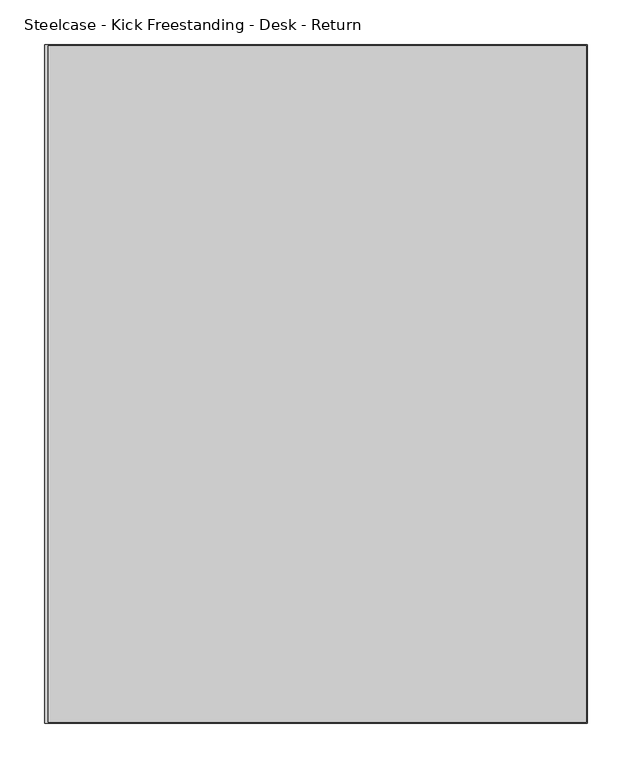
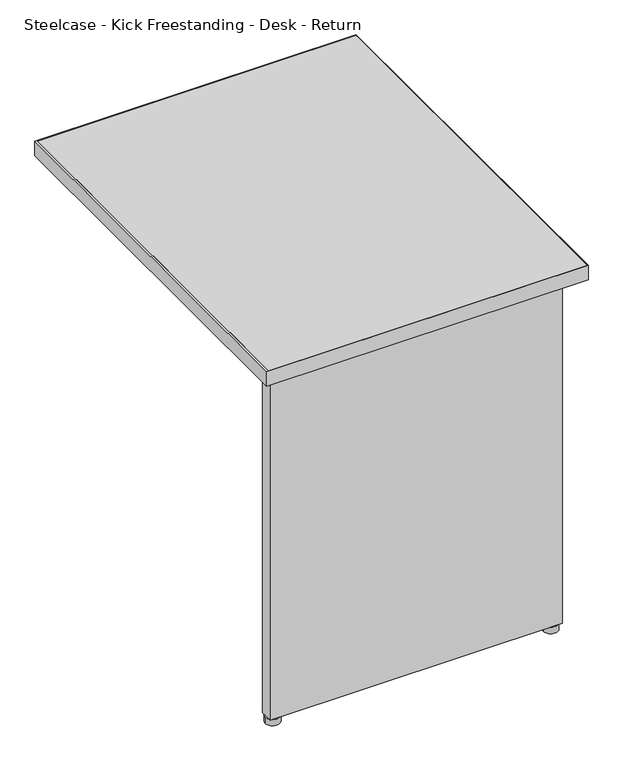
"""IFC4 building model written with IfcOpenShell, lengths in millimetres: furniture geometry, Steelcase - Kick Freestanding - Desk - Return : 24D X 30W - Right."""

from ifc_helpers import new_model, si_unit, point, frame, frame_2d, origin, origin_with_axes, place, context, project, spatial, polyline, circle_curve, trimmed, segment, composite_curve, outline, extrude, source, transform, mapped, element, save


def steelcase_kick_freestanding_desk_return_db6adc84(model_context):
    return source(origin(), model_context, "Body", "SweptSolid", [
        extrude(outline(composite_curve([segment(trimmed(circle_curve(frame_2d((2107.4714425, -1283.4145152)), 13.97), [point((2121.4414425, -1283.4145152))], [point((2093.5014425, -1283.4145152))], False, "CARTESIAN"), True, "CONTINUOUS"), segment(trimmed(circle_curve(frame_2d((2107.4714425, -1283.4145152)), 13.97), [point((2093.5014425, -1283.4145152))], [point((2121.4414425, -1283.4145152))], False, "CARTESIAN"), True, "CONTINUOUS")], self_intersect=False)), origin_with_axes(), (0.0, 0.0, 1.0), 12.7),
        extrude(outline(composite_curve([segment(trimmed(circle_curve(frame_2d((1579.6594425, -1283.4145152)), 13.97), [point((1593.6294425, -1283.4145152))], [point((1565.6894425, -1283.4145152))], False, "CARTESIAN"), True, "CONTINUOUS"), segment(trimmed(circle_curve(frame_2d((1579.6594425, -1283.4145152)), 13.97), [point((1565.6894425, -1283.4145152))], [point((1593.6294425, -1283.4145152))], False, "CARTESIAN"), True, "CONTINUOUS")], self_intersect=False)), origin_with_axes(), (0.0, 0.0, 1.0), 12.7),
        extrude(outline(polyline([(2122.7114425, -1270.8669152), (2122.7114425, -1295.3525098), (1568.2294473, -1295.3525098), (1568.2294473, -1270.8669041), (1691.2670317, -1270.8669041), (1691.2670317, -1293.2951136), (1790.9874347, -1293.2951136), (1790.9874347, -1270.8669041), (1899.7248382, -1270.8669041), (1899.7248382, -1293.2951136), (1999.4452412, -1293.2951136), (1999.4452412, -1270.8669152), (2122.7114425, -1270.8669152)])), frame((0.0, 0.0, 12.7), z_axis=(0.0, 0.0, 1.0), x_axis=(1.0, 0.0, 0.0)), (0.0, 0.0, 1.0), 682.244),
        extrude(outline(polyline([(1558.5012257, -548.0845152), (2162.8688425, -548.0845152), (2162.8688425, -1307.5445152), (1558.5012257, -1307.5445152), (1558.5012257, -548.0845152)])), frame((0.0, 0.0, 694.944), z_axis=(0.0, 0.0, 1.0), x_axis=(1.0, 0.0, 0.0)), (0.0, 0.0, 1.0), 28.956),
        extrude(outline(polyline([(1554.2594425, -546.8145152), (2163.8594425, -546.8145152), (2163.8594425, -1308.8145152), (1554.2594425, -1308.8145152), (1554.2594425, -546.8145152)]), holes=[polyline([(1558.5012257, -548.0845152), (1558.5012257, -1307.5445152), (2162.8688425, -1307.5445152), (2162.8688425, -548.0845152), (1558.5012257, -548.0845152)])]), frame((0.0, 0.0, 694.944), z_axis=(0.0, 0.0, 1.0), x_axis=(1.0, 0.0, 0.0)), (0.0, 0.0, 1.0), 28.956),
    ])


if __name__ == "__main__":
    model = new_model("IFC4")
    model_context = context("Model", 3, world=origin())
    ifc_project = project(units=[si_unit("LENGTHUNIT", "METRE", prefix="MILLI")], contexts=[model_context])
    site = spatial("IfcSite", under=ifc_project)
    building = spatial("IfcBuilding", under=site)
    placement = place(None, origin())
    steelcase_kick_freestanding_desk_return_shape = steelcase_kick_freestanding_desk_return_db6adc84(model_context)
    element("IfcFurniture", 1, ObjectType="Steelcase - Kick Freestanding - Desk - Return : 24D X 30W - Right", at=placement, inside=building, context=model_context, shape_type="MappedRepresentation", body=[
        mapped(steelcase_kick_freestanding_desk_return_shape, transform((0.0, 0.0, 0.0), x_axis=(1.0, 0.0, 0.0), y_axis=(0.0, 1.0, 0.0), z_axis=(0.0, 0.0, 1.0))),
    ])
    save(model, "model.ifc")
